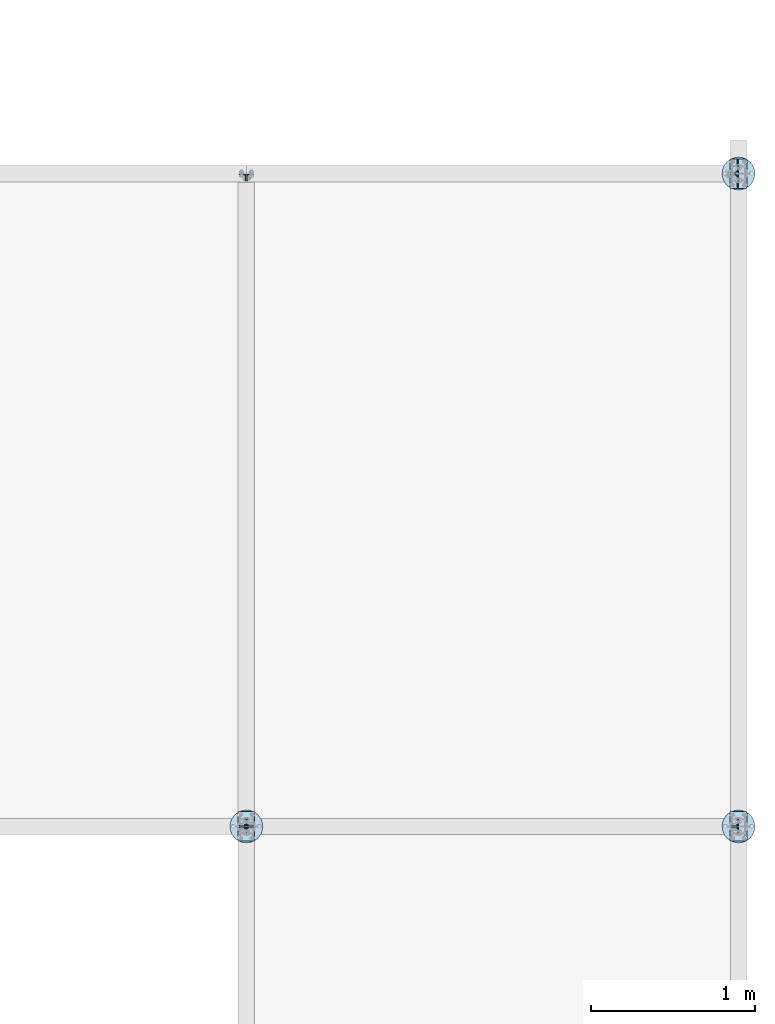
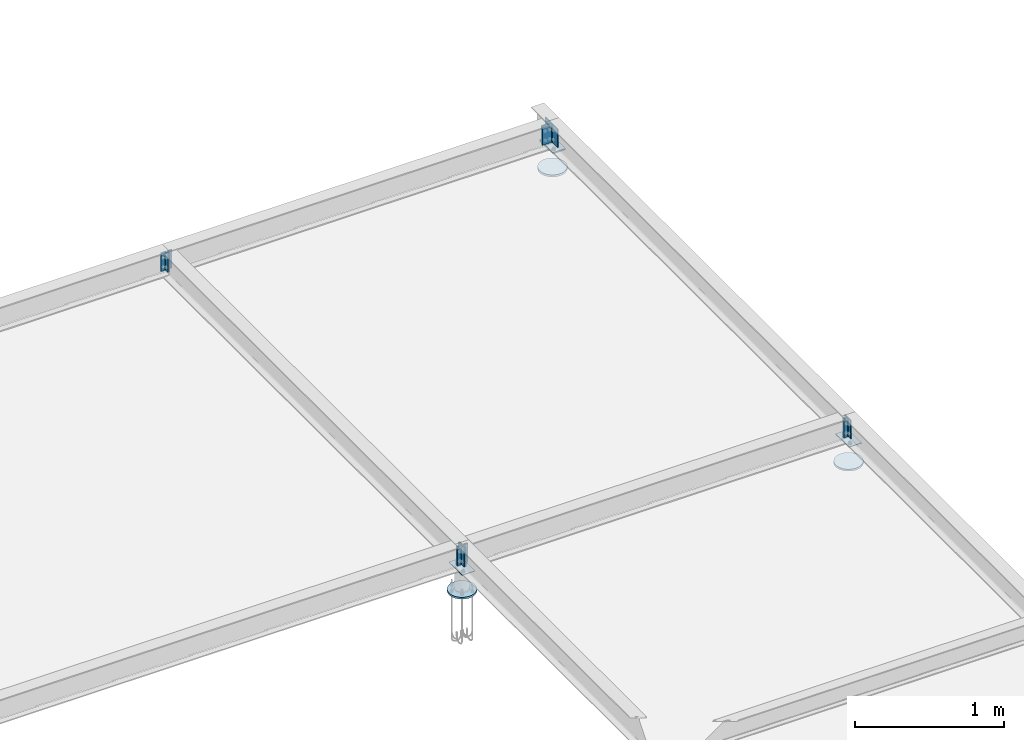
# One storey, part 8 of 84: 16 plates.
"""IFC4 building model written with IfcOpenShell, lengths in metres."""

from ifc_helpers import new_model, si_unit, frame, origin_with_axes, place, context, project, spatial, polyline, outline, extrude, type_object, element, save


model = new_model("IFC4")

# Units and contexts
model_context = context("Model", 3, precision=1e-05, world=origin_with_axes())
ifc_project = project(units=[si_unit("LENGTHUNIT", "METRE"), si_unit("AREAUNIT", "SQUARE_METRE"), si_unit("VOLUMEUNIT", "CUBIC_METRE"), si_unit("MASSUNIT", "GRAM", prefix="KILO"), si_unit("TIMEUNIT", "SECOND"), si_unit("PLANEANGLEUNIT", "RADIAN"), si_unit("SOLIDANGLEUNIT", "STERADIAN"), si_unit("THERMODYNAMICTEMPERATUREUNIT", "DEGREE_CELSIUS")], contexts=[model_context])

# Site, building, storey
placement_1 = place(None, origin_with_axes())
site = spatial("IfcSite", under=ifc_project, at=placement_1, Name="Italia", CompositionType="ELEMENT")
building = spatial("IfcBuilding", under=site, at=placement_1, Name="Tettoia", CompositionType="ELEMENT")
storey_placement = place(None, frame((0.0, 0.0, 4.199999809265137), z_axis=(0.0, 0.0, 1.0), x_axis=(1.0, 0.0, 0.0)))
storey = spatial("IfcBuildingStorey", under=building, at=storey_placement, Name="Storey 1", CompositionType="ELEMENT", Elevation=4.199999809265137)

# Plates
plate_type_1 = type_object("IfcPlateType", Name="Collegamento -009_0109", PredefinedType="SHEET")
placement_2 = place(placement_1, origin_with_axes())
plate_1_placement = place(placement_2, origin_with_axes())
element("IfcPlate", 1, at=plate_1_placement, inside=storey, type_object=plate_type_1, Name="Collegamento -009_0109", context=model_context, shape_type="SweptSolid", body=[
    extrude(outline(polyline([(0.0, 0.0), (-0.00366402, -0.0152588), (-0.00966835, -0.0297556), (-0.0178671, -0.0431356), (-0.0280581, -0.055068), (-0.0399904, -0.065259), (-0.0533705, -0.0734577), (-0.0678673, -0.0794621), (-0.0831261, -0.0831261), (-0.0987692, -0.0843573), (-0.114412, -0.0831261), (-0.129671, -0.0794621), (-0.144168, -0.0734577), (-0.157548, -0.065259), (-0.16948, -0.055068), (-0.179671, -0.0431356), (-0.18787, -0.0297556), (-0.193874, -0.0152588), (-0.197538, 0.0), (-0.19877, 0.0156431), (-0.197538, 0.0312862), (-0.193874, 0.046545), (-0.18787, 0.0610418), (-0.179671, 0.0744219), (-0.16948, 0.0863543), (-0.157548, 0.0965452), (-0.144168, 0.104744), (-0.129671, 0.110748), (-0.114412, 0.114412), (-0.0987692, 0.115644), (-0.0831261, 0.114412), (-0.0678673, 0.110748), (-0.0533705, 0.104744), (-0.0399904, 0.0965452), (-0.0280581, 0.0863543), (-0.0178671, 0.0744219), (-0.00966835, 0.0610418), (-0.00366402, 0.046545), (0.0, 0.0312862), (0.00123119, 0.0156431), (0.0, 0.0)])), frame((8.30564, 10.0688, 4.0), z_axis=(0.0, 0.0, 1.0), x_axis=(0.0, 1.0, 0.0)), (0.0, 0.0, 1.0), 0.0149999),
])
plate_type_2 = type_object("IfcPlateType", Name="Collegamento -010_0110", PredefinedType="SHEET")
plate_2_placement = place(placement_2, origin_with_axes())
element("IfcPlate", 2, at=plate_2_placement, inside=storey, type_object=plate_type_2, Name="Collegamento -010_0110", context=model_context, shape_type="SweptSolid", body=[
    extrude(outline(polyline([(0.0, 0.0), (-0.00366402, -0.0152588), (-0.00966835, -0.0297556), (-0.0178671, -0.0431356), (-0.0280581, -0.055068), (-0.0399904, -0.065259), (-0.0533705, -0.0734577), (-0.0678673, -0.0794621), (-0.0831261, -0.0831261), (-0.0987692, -0.0843573), (-0.114412, -0.0831261), (-0.129671, -0.0794621), (-0.144168, -0.0734577), (-0.157548, -0.065259), (-0.16948, -0.055068), (-0.179671, -0.0431356), (-0.18787, -0.0297556), (-0.193874, -0.0152588), (-0.197538, 0.0), (-0.19877, 0.0156431), (-0.197538, 0.0312862), (-0.193874, 0.046545), (-0.18787, 0.0610418), (-0.179671, 0.0744219), (-0.16948, 0.0863543), (-0.157548, 0.0965452), (-0.144168, 0.104744), (-0.129671, 0.110748), (-0.114412, 0.114412), (-0.0987692, 0.115644), (-0.0831261, 0.114412), (-0.0678673, 0.110748), (-0.0533705, 0.104744), (-0.0399904, 0.0965452), (-0.0280581, 0.0863543), (-0.0178671, 0.0744219), (-0.00966835, 0.0610418), (-0.00366402, 0.046545), (0.0, 0.0312862), (0.00123119, 0.0156431), (0.0, 0.0)])), frame((11.3056, 10.0688, 4.0), z_axis=(0.0, 0.0, 1.0), x_axis=(0.0, 1.0, 0.0)), (0.0, 0.0, 1.0), 0.0149999),
])
plate_type_3 = type_object("IfcPlateType", Name="Collegamento -013_0113", PredefinedType="SHEET")
plate_3_placement = place(placement_2, origin_with_axes())
element("IfcPlate", 3, at=plate_3_placement, inside=storey, type_object=plate_type_3, Name="Collegamento -013_0113", context=model_context, shape_type="SweptSolid", body=[
    extrude(outline(polyline([(0.0, 0.0), (-0.00366306, -0.0152588), (-0.00966835, -0.0297556), (-0.0178671, -0.0431356), (-0.0280581, -0.055068), (-0.0399904, -0.065259), (-0.0533705, -0.0734577), (-0.0678673, -0.079463), (-0.0831261, -0.0831261), (-0.0987692, -0.0843573), (-0.114412, -0.0831261), (-0.129671, -0.079463), (-0.144168, -0.0734577), (-0.157548, -0.065259), (-0.16948, -0.055068), (-0.179671, -0.0431356), (-0.18787, -0.0297556), (-0.193875, -0.0152588), (-0.197538, 0.0), (-0.19877, 0.0156431), (-0.197538, 0.0312862), (-0.193875, 0.046545), (-0.18787, 0.0610418), (-0.179671, 0.0744219), (-0.16948, 0.0863543), (-0.157548, 0.0965452), (-0.144168, 0.104744), (-0.129671, 0.110749), (-0.114412, 0.114412), (-0.0987692, 0.115644), (-0.0831261, 0.114412), (-0.0678673, 0.110749), (-0.0533705, 0.104744), (-0.0399904, 0.0965452), (-0.0280581, 0.0863543), (-0.0178671, 0.0744219), (-0.00966835, 0.0610418), (-0.00366306, 0.046545), (0.0, 0.0312862), (0.00123119, 0.0156431), (0.0, 0.0)])), frame((11.3056, 14.0488, 4.0), z_axis=(0.0, 0.0, 1.0), x_axis=(0.0, 1.0, 0.0)), (0.0, 0.0, 1.0), 0.0170002),
])
plate_type_4 = type_object("IfcPlateType", Name="Collegamento -016_0109", PredefinedType="SHEET")
plate_4_placement = place(placement_2, origin_with_axes())
element("IfcPlate", 4, at=plate_4_placement, inside=storey, type_object=plate_type_4, Name="Collegamento -016_0109", context=model_context, shape_type="SweptSolid", body=[
    extrude(outline(polyline([(0.0, 0.0), (0.0, 0.00300026), (0.000227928, 0.00414848), (0.000878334, 0.00512123), (0.00185204, 0.00577164), (0.00300026, 0.00599957), (0.0279999, 0.00599957), (0.0302963, 0.00645638), (0.0322428, 0.00775719), (0.0335436, 0.00970364), (0.0340004, 0.0120001), (0.0340004, 0.0369997), (0.0342283, 0.0381479), (0.0348787, 0.0391216), (0.0358515, 0.039772), (0.0369997, 0.04), (0.04, 0.04), (0.04, 0.0), (0.0, 0.0)])), frame((8.2928, 13.9072, 4.377), z_axis=(0.0, 0.0, -1.0), x_axis=(0.0, 1.0, 0.0)), (0.0, 0.0, 1.0), 0.154),
])
plate_type_5 = type_object("IfcPlateType", Name="Collegamento -016_0109", PredefinedType="SHEET")
plate_5_placement = place(placement_2, origin_with_axes())
element("IfcPlate", 5, at=plate_5_placement, inside=storey, type_object=plate_type_5, Name="Collegamento -016_0109", context=model_context, shape_type="SweptSolid", body=[
    extrude(outline(polyline([(0.0, 0.0), (-0.00114822, 0.000227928), (-0.00212097, 0.000878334), (-0.00277138, 0.00185204), (-0.00299931, 0.00300026), (-0.00299931, 0.0279999), (-0.00345612, 0.0302963), (-0.00475693, 0.0322428), (-0.00670338, 0.0335436), (-0.00899982, 0.0340004), (-0.0339994, 0.0340004), (-0.0351477, 0.0342283), (-0.0361214, 0.0348787), (-0.0367718, 0.0358515), (-0.0369997, 0.0369997), (-0.0369997, 0.04), (0.00300026, 0.04), (0.00300026, 0.0), (0.0, 0.0)])), frame((8.2472, 13.9442, 4.377), z_axis=(0.0, 0.0, -1.0), x_axis=(0.0, 1.0, 0.0)), (0.0, 0.0, 1.0), 0.154),
])
plate_type_6 = type_object("IfcPlateType", Name="Collegamento 0109_-009", PredefinedType="SHEET")
plate_6_placement = place(placement_2, origin_with_axes())
element("IfcPlate", 6, at=plate_6_placement, inside=storey, type_object=plate_type_6, Name="Collegamento 0109_-009", context=model_context, shape_type="SweptSolid", body=[
    extrude(outline(polyline([(0.0, 0.0), (-0.18, 0.0), (-0.18, 0.101), (0.0, 0.101), (0.0, 0.0)])), frame((8.3405, 10.06, 4.195), z_axis=(0.0, 0.0, 1.0), x_axis=(0.0, 1.0, 0.0)), (0.0, 0.0, 1.0), 0.00500011),
])
plate_type_7 = type_object("IfcPlateType", Name="Collegamento 0109_0108", PredefinedType="SHEET")
plate_7_placement = place(placement_2, origin_with_axes())
element("IfcPlate", 7, at=plate_7_placement, inside=storey, type_object=plate_type_7, Name="Collegamento 0109_0108", context=model_context, shape_type="SweptSolid", body=[
    extrude(outline(polyline([(0.0, 0.0), (-0.00300026, 0.0), (-0.00414848, 0.000227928), (-0.00512123, 0.000878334), (-0.00577164, 0.00185204), (-0.00599957, 0.00300026), (-0.00599957, 0.0279999), (-0.00645638, 0.0302963), (-0.00775719, 0.0322428), (-0.00970364, 0.0335436), (-0.0120001, 0.0340004), (-0.0369997, 0.0340004), (-0.0381479, 0.0342283), (-0.0391216, 0.0348787), (-0.039772, 0.0358515), (-0.04, 0.0369997), (-0.04, 0.04), (0.0, 0.04), (0.0, 0.0)])), frame((8.2472, 9.9672, 4.377), z_axis=(0.0, 0.0, -1.0), x_axis=(0.0, 1.0, 0.0)), (0.0, 0.0, 1.0), 0.154),
])
plate_type_8 = type_object("IfcPlateType", Name="Collegamento 0109_0108", PredefinedType="SHEET")
plate_8_placement = place(placement_2, origin_with_axes())
element("IfcPlate", 8, at=plate_8_placement, inside=storey, type_object=plate_type_8, Name="Collegamento 0109_0108", context=model_context, shape_type="SweptSolid", body=[
    extrude(outline(polyline([(0.0, 0.0), (-0.000227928, -0.00114822), (-0.000878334, -0.00212097), (-0.00185204, -0.00277138), (-0.00300026, -0.00299931), (-0.0279999, -0.00299931), (-0.0302963, -0.00345612), (-0.0322428, -0.00475693), (-0.0335436, -0.00670338), (-0.0340004, -0.00899982), (-0.0340004, -0.0339994), (-0.0342283, -0.0351477), (-0.0348787, -0.0361214), (-0.0358515, -0.0367718), (-0.0369997, -0.0369997), (-0.04, -0.0369997), (-0.04, 0.00300026), (0.0, 0.00300026), (0.0, 0.0)])), frame((8.2842, 10.0128, 4.377), z_axis=(0.0, 0.0, -1.0), x_axis=(0.0, 1.0, 0.0)), (0.0, 0.0, 1.0), 0.154),
])
plate_type_9 = type_object("IfcPlateType", Name="Collegamento 0109_0110", PredefinedType="SHEET")
plate_9_placement = place(placement_2, origin_with_axes())
element("IfcPlate", 9, at=plate_9_placement, inside=storey, type_object=plate_type_9, Name="Collegamento 0109_0110", context=model_context, shape_type="SweptSolid", body=[
    extrude(outline(polyline([(0.0, 0.0), (0.00300026, 0.0), (0.00414848, -0.000227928), (0.00512123, -0.000878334), (0.00577164, -0.00185204), (0.00599957, -0.00300026), (0.00599957, -0.0279999), (0.00645638, -0.0302963), (0.00775719, -0.0322428), (0.00970364, -0.0335436), (0.0120001, -0.0340004), (0.0369997, -0.0340004), (0.0381479, -0.0342283), (0.0391216, -0.0348787), (0.039772, -0.0358515), (0.04, -0.0369997), (0.04, -0.04), (0.0, -0.04), (0.0, 0.0)])), frame((8.3328, 9.9728, 4.377), z_axis=(0.0, 0.0, -1.0), x_axis=(0.0, 1.0, 0.0)), (0.0, 0.0, 1.0), 0.154),
])
plate_type_10 = type_object("IfcPlateType", Name="Collegamento 0109_0110", PredefinedType="SHEET")
plate_10_placement = place(placement_2, origin_with_axes())
element("IfcPlate", 10, at=plate_10_placement, inside=storey, type_object=plate_type_10, Name="Collegamento 0109_0110", context=model_context, shape_type="SweptSolid", body=[
    extrude(outline(polyline([(0.0, 0.0), (0.000227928, 0.00114822), (0.000878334, 0.00212097), (0.00185204, 0.00277138), (0.00300026, 0.00299931), (0.0279999, 0.00299931), (0.0302963, 0.00345612), (0.0322428, 0.00475693), (0.0335436, 0.00670338), (0.0340004, 0.00899982), (0.0340004, 0.0339994), (0.0342283, 0.0351477), (0.0348787, 0.0361214), (0.0358515, 0.0367718), (0.0369997, 0.0369997), (0.04, 0.0369997), (0.04, -0.00300026), (0.0, -0.00300026), (0.0, 0.0)])), frame((8.2958, 9.9272, 4.377), z_axis=(0.0, 0.0, -1.0), x_axis=(0.0, 1.0, 0.0)), (0.0, 0.0, 1.0), 0.154),
])
plate_type_11 = type_object("IfcPlateType", Name="Collegamento 0110_-010", PredefinedType="SHEET")
plate_11_placement = place(placement_2, origin_with_axes())
element("IfcPlate", 11, at=plate_11_placement, inside=storey, type_object=plate_type_11, Name="Collegamento 0110_-010", context=model_context, shape_type="SweptSolid", body=[
    extrude(outline(polyline([(0.0, 0.0), (-0.18, 0.0), (-0.18, 0.101), (0.0, 0.101), (0.0, 0.0)])), frame((11.3405, 10.06, 4.195), z_axis=(0.0, 0.0, 1.0), x_axis=(0.0, 1.0, 0.0)), (0.0, 0.0, 1.0), 0.00500011),
])
plate_type_12 = type_object("IfcPlateType", Name="Collegamento 0110_0109", PredefinedType="SHEET")
plate_12_placement = place(placement_2, origin_with_axes())
element("IfcPlate", 12, at=plate_12_placement, inside=storey, type_object=plate_type_12, Name="Collegamento 0110_0109", context=model_context, shape_type="SweptSolid", body=[
    extrude(outline(polyline([(0.0, 0.0), (-0.00300026, 0.0), (-0.00414848, 0.000227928), (-0.00512123, 0.000878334), (-0.00577164, 0.00185204), (-0.00599957, 0.00300026), (-0.00599957, 0.0279999), (-0.00645638, 0.0302963), (-0.00775719, 0.0322428), (-0.00970364, 0.0335436), (-0.0120001, 0.0340004), (-0.0369997, 0.0340004), (-0.0381479, 0.0342283), (-0.0391216, 0.0348787), (-0.039772, 0.0358515), (-0.04, 0.0369997), (-0.04, 0.04), (0.0, 0.04), (0.0, 0.0)])), frame((11.2472, 9.9672, 4.377), z_axis=(0.0, 0.0, -1.0), x_axis=(0.0, 1.0, 0.0)), (0.0, 0.0, 1.0), 0.154),
])
plate_type_13 = type_object("IfcPlateType", Name="Collegamento 0110_0109", PredefinedType="SHEET")
plate_13_placement = place(placement_2, origin_with_axes())
element("IfcPlate", 13, at=plate_13_placement, inside=storey, type_object=plate_type_13, Name="Collegamento 0110_0109", context=model_context, shape_type="SweptSolid", body=[
    extrude(outline(polyline([(0.0, 0.0), (-0.000227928, -0.00114822), (-0.000878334, -0.00212097), (-0.00185204, -0.00277138), (-0.00300026, -0.00299931), (-0.0279999, -0.00299931), (-0.0302963, -0.00345612), (-0.0322428, -0.00475693), (-0.0335436, -0.00670338), (-0.0340004, -0.00899982), (-0.0340004, -0.0339994), (-0.0342283, -0.0351477), (-0.0348787, -0.0361214), (-0.0358515, -0.0367718), (-0.0369997, -0.0369997), (-0.04, -0.0369997), (-0.04, 0.00300026), (0.0, 0.00300026), (0.0, 0.0)])), frame((11.2842, 10.0128, 4.377), z_axis=(0.0, 0.0, -1.0), x_axis=(0.0, 1.0, 0.0)), (0.0, 0.0, 1.0), 0.154),
])
plate_type_14 = type_object("IfcPlateType", Name="Collegamento 0113_-013", PredefinedType="SHEET")
plate_14_placement = place(placement_2, origin_with_axes())
element("IfcPlate", 14, at=plate_14_placement, inside=storey, type_object=plate_type_14, Name="Collegamento 0113_-013", context=model_context, shape_type="SweptSolid", body=[
    extrude(outline(polyline([(0.0, 0.0), (-0.18, 0.0), (-0.18, 0.101), (0.0, 0.101), (0.0, 0.0)])), frame((11.3405, 14.04, 4.19), z_axis=(0.0, 0.0, 1.0), x_axis=(0.0, 1.0, 0.0)), (0.0, 0.0, 1.0), 0.0100002),
])
plate_type_15 = type_object("IfcPlateType", Name="Collegamento 0113_-016", PredefinedType="SHEET")
plate_15_placement = place(placement_2, origin_with_axes())
element("IfcPlate", 15, at=plate_15_placement, inside=storey, type_object=plate_type_15, Name="Collegamento 0113_-016", context=model_context, shape_type="SweptSolid", body=[
    extrude(outline(polyline([(0.0, 0.0), (-0.00599957, 0.0), (-0.00599957, 0.0640001), (-0.00676155, 0.0678272), (-0.00892925, 0.0710707), (-0.0121737, 0.0732384), (-0.0159998, 0.0740004), (-0.0799999, 0.0740004), (-0.0799999, 0.0799999), (0.0, 0.0799999), (0.0, 0.0)])), frame((11.2072, 13.9472, 4.377), z_axis=(0.0, 0.0, -1.0), x_axis=(0.0, 1.0, 0.0)), (0.0, 0.0, 1.0), 0.154),
])
plate_type_16 = type_object("IfcPlateType", Name="Collegamento 0113_-016", PredefinedType="SHEET")
plate_16_placement = place(placement_2, origin_with_axes())
element("IfcPlate", 16, at=plate_16_placement, inside=storey, type_object=plate_type_16, Name="Collegamento 0113_-016", context=model_context, shape_type="SweptSolid", body=[
    extrude(outline(polyline([(0.0, 0.0), (-0.0640001, 0.0), (-0.0678263, -0.000761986), (-0.0710707, -0.00292969), (-0.0732384, -0.00617313), (-0.0740004, -0.0100002), (-0.0740004, -0.0740004), (-0.0799999, -0.0740004), (-0.0799999, 0.00599957), (0.0, 0.00599957), (0.0, 0.0)])), frame((11.2812, 14.0328, 4.377), z_axis=(0.0, 0.0, -1.0), x_axis=(0.0, 1.0, 0.0)), (0.0, 0.0, 1.0), 0.154),
])

save(model, "model.ifc")
